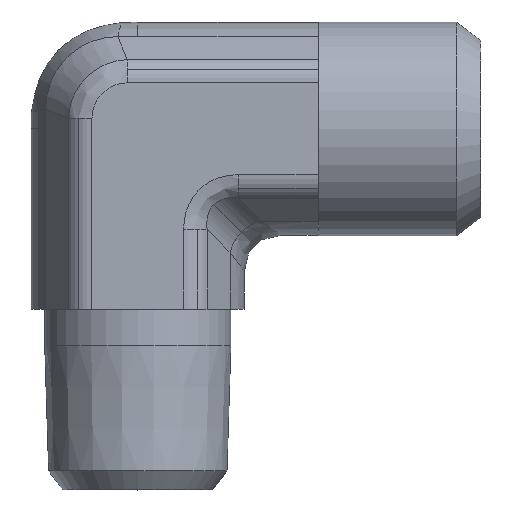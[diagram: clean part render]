
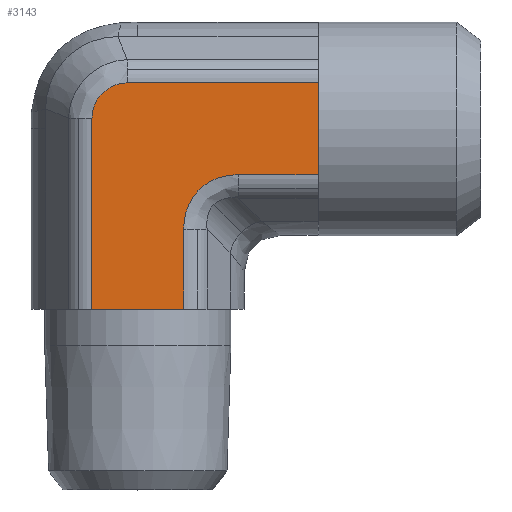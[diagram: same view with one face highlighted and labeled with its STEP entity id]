
A CAD part, top view. The second image highlights one B-rep face of the part: STEP entity #3143.
In plain terms, the highlighted planar face has unit normal (0, 0, 1) as drawn and (0, -1, 0) by its records, which use the part's own axes.
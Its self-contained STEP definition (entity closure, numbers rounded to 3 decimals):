
#361=CARTESIAN_POINT('',(1.071,-5.9,2.54));
#362=VERTEX_POINT('',#361);
#370=CARTESIAN_POINT('',(5.5,-5.9,2.54));
#371=VERTEX_POINT('',#370);
#372=CARTESIAN_POINT('',(1.071,-5.9,2.54));
#373=DIRECTION('',(1.0,0.0,0.0));
#374=VECTOR('',#373,4.429);
#375=LINE('',#372,#374);
#376=EDGE_CURVE('',#362,#371,#375,.T.);
#485=CARTESIAN_POINT('',(-7.04,-5.9,-0.585));
#486=VERTEX_POINT('',#485);
#494=CARTESIAN_POINT('',(-7.04,-5.9,10.0));
#495=VERTEX_POINT('',#494);
#496=CARTESIAN_POINT('',(-7.04,-5.9,-0.585));
#497=DIRECTION('',(0.0,0.0,1.0));
#498=VECTOR('',#497,10.585);
#499=LINE('',#496,#498);
#500=EDGE_CURVE('',#486,#495,#499,.T.);
#2196=CARTESIAN_POINT('',(-4.5,-5.9,10.0));
#2197=VERTEX_POINT('',#2196);
#2229=CARTESIAN_POINT('',(-4.5,-5.9,10.0));
#2230=DIRECTION('',(-1.0,0.0,0.0));
#2231=VECTOR('',#2230,2.54);
#2232=LINE('',#2229,#2231);
#2233=EDGE_CURVE('',#2197,#495,#2232,.T.);
#2298=CARTESIAN_POINT('',(-1.96,-5.9,10.0));
#2299=VERTEX_POINT('',#2298);
#2300=CARTESIAN_POINT('',(-1.96,-5.9,10.0));
#2301=DIRECTION('',(-1.0,0.0,0.0));
#2302=VECTOR('',#2301,2.54);
#2303=LINE('',#2300,#2302);
#2304=EDGE_CURVE('',#2299,#2197,#2303,.T.);
#2386=CARTESIAN_POINT('',(5.5,-5.9,-2.54));
#2387=VERTEX_POINT('',#2386);
#2388=CARTESIAN_POINT('',(5.5,-5.9,-2.54));
#2389=DIRECTION('',(0.0,0.0,1.0));
#2390=VECTOR('',#2389,5.081);
#2391=LINE('',#2388,#2390);
#2392=EDGE_CURVE('',#2387,#371,#2391,.T.);
#2828=CARTESIAN_POINT('',(-5.085,-5.9,-2.54));
#2829=VERTEX_POINT('',#2828);
#2837=CARTESIAN_POINT('',(-7.04,-5.9,-0.585));
#2838=CARTESIAN_POINT('',(-7.04,-5.9,-0.712));
#2839=CARTESIAN_POINT('',(-7.027,-5.9,-0.841));
#2840=CARTESIAN_POINT('',(-6.961,-5.9,-1.168));
#2841=CARTESIAN_POINT('',(-6.889,-5.9,-1.36));
#2842=CARTESIAN_POINT('',(-6.626,-5.9,-1.825));
#2843=CARTESIAN_POINT('',(-6.394,-5.9,-2.068));
#2844=CARTESIAN_POINT('',(-5.806,-5.9,-2.436));
#2845=CARTESIAN_POINT('',(-5.446,-5.9,-2.54));
#2846=CARTESIAN_POINT('',(-5.085,-5.9,-2.54));
#2847=B_SPLINE_CURVE_WITH_KNOTS('',3,(#2837,#2838,#2839,#2840,#2841,#2842,#2843,#2844,#2845,#2846),.UNSPECIFIED.,.F.,.U.,(4,2,2,2,4),(-3.052,-2.67,-2.06,-1.083,0.0),.UNSPECIFIED.);
#2848=EDGE_CURVE('',#2829,#486,#2847,.F.);
#2875=CARTESIAN_POINT('',(5.5,-5.9,-2.54));
#2876=DIRECTION('',(-1.0,0.0,0.0));
#2877=VECTOR('',#2876,10.585);
#2878=LINE('',#2875,#2877);
#2879=EDGE_CURVE('',#2387,#2829,#2878,.T.);
#3011=CARTESIAN_POINT('',(-1.96,-5.9,5.571));
#3012=VERTEX_POINT('',#3011);
#3013=CARTESIAN_POINT('',(-1.96,-5.9,10.0));
#3014=DIRECTION('',(0.0,0.0,-1.0));
#3015=VECTOR('',#3014,4.429);
#3016=LINE('',#3013,#3015);
#3017=EDGE_CURVE('',#2299,#3012,#3016,.T.);
#3100=CARTESIAN_POINT('',(2.082,-5.9,6.582));
#3101=DIRECTION('',(0.,-1.0,0.));
#3102=DIRECTION('',(-0.707,0.,-0.707));
#3103=AXIS2_PLACEMENT_3D('',#3100,#3101,#3102);
#3104=ELLIPSE('',#3103,4.518,3.5);
#3105=EDGE_CURVE('',#3012,#362,#3104,.T.);
#3127=CARTESIAN_POINT('',(-4.5,-5.9,-3.175));
#3128=DIRECTION('',(0.0,-1.0,0.0));
#3129=DIRECTION('',(0.0,0.0,-1.0));
#3130=AXIS2_PLACEMENT_3D('',#3127,#3128,#3129);
#3131=PLANE('',#3130);
#3132=ORIENTED_EDGE('',*,*,#2879,.F.);
#3133=ORIENTED_EDGE('',*,*,#2392,.T.);
#3134=ORIENTED_EDGE('',*,*,#376,.F.);
#3135=ORIENTED_EDGE('',*,*,#3105,.F.);
#3136=ORIENTED_EDGE('',*,*,#3017,.F.);
#3137=ORIENTED_EDGE('',*,*,#2304,.T.);
#3138=ORIENTED_EDGE('',*,*,#2233,.T.);
#3139=ORIENTED_EDGE('',*,*,#500,.F.);
#3140=ORIENTED_EDGE('',*,*,#2848,.F.);
#3141=EDGE_LOOP('',(#3132,#3133,#3134,#3135,#3136,#3137,#3138,#3139,#3140));
#3142=FACE_OUTER_BOUND('',#3141,.T.);
#3143=ADVANCED_FACE('',(#3142),#3131,.T.);
